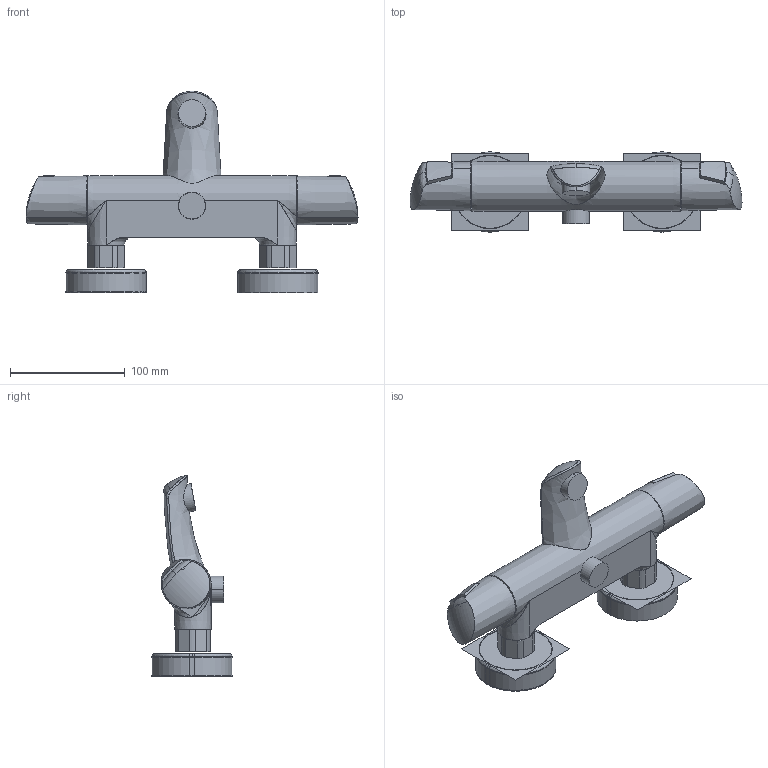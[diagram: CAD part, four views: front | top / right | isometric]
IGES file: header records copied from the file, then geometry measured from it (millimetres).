
Start section:  PTC IGES file: 57504_web.igs
Global section: file name: 57504_web.igs; native system: Creo Parametric by PTC Inc.; preprocessor: 2017380; author: jaj; organization: Unknown; date: 20181008.104403; units: millimetre
Bounding box: 289.7 x 70 x 175.55 mm (x, y, z)
Surface area: 117027.1 mm2 (no closed solid volume)
Topology: 0 solids, 0 shells, 107 faces, 695 edges, 790 vertices
Faces by surface type: bspline 52, revolution 47, extrusion 8
